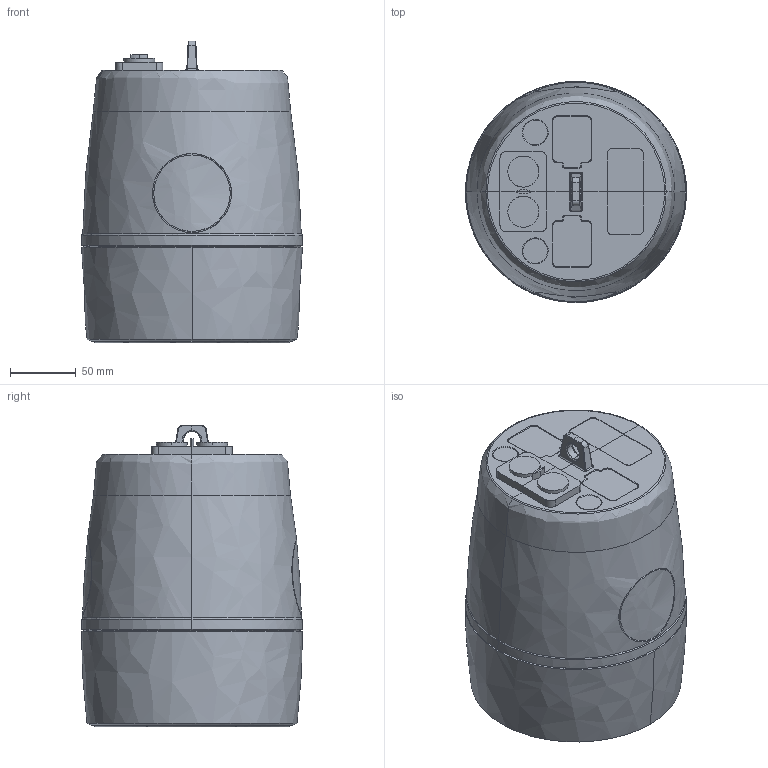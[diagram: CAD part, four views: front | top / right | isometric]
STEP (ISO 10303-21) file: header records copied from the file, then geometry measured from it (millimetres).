
FILE_DESCRIPTION(/* description */ (''),/* implementation_level */ '2;1');
FILE_NAME(/* name */ '240206_ROXX_E.SHOW mini_Pendant_3D_step',/* time_stamp */ '2024-02-06T11:15:13+01:00',/* author */ (''),/* organization */ (''),/* preprocessor_version */ 'ST-DEVELOPER v16.5',/* originating_system */ 'Rhino 7.36',/* authorisation */ '');
FILE_SCHEMA (('CONFIG_CONTROL_DESIGN'));
Length unit declared in the file: millimetre
Products named in the file (1): Document
Bounding box: 167.91 x 168 x 229.3 mm (x, y, z)
Volume: 4051059.6 mm3; surface area: 163662.3 mm2
Topology: 1 solids, 1 shells, 169 faces, 397 edges, 238 vertices
Faces by surface type: bspline 64, cylinder 64, plane 41
Entity records: 8816 total; most frequent: CARTESIAN_POINT 6282, ORIENTED_EDGE 794, EDGE_CURVE 397, VERTEX_POINT 238, EDGE_LOOP 179, B_SPLINE_CURVE_WITH_KNOTS 171, ADVANCED_FACE 169, FACE_OUTER_BOUND 169
